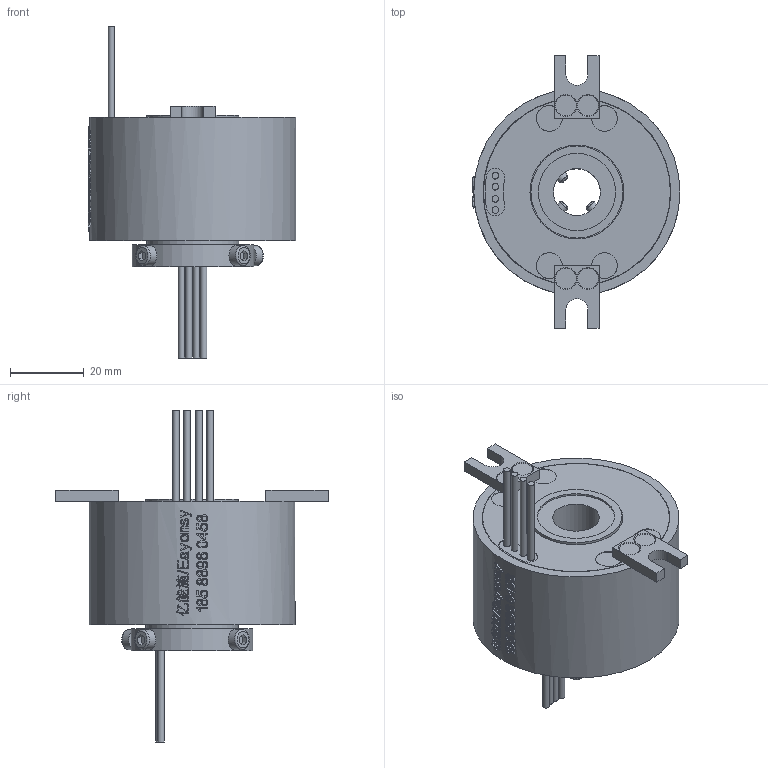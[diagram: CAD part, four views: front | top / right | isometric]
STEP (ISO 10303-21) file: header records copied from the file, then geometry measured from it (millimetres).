
FILE_DESCRIPTION(/* description */ (''),/* implementation_level */ '2;1');
FILE_NAME(/* name */ 'YDS1256-0410-3D模型.stp',/* time_stamp */ '2025-09-03T18:13:48+08:00',/* author */ (''),/* organization */ (''),/* preprocessor_version */ 'ST-DEVELOPER v16.7',/* originating_system */ 'SIEMENS PLM Software NX 12.0',/* authorisation */ '');
FILE_SCHEMA (('AUTOMOTIVE_DESIGN { 1 0 10303 214 3 1 1 1 }'));
Length unit declared in the file: millimetre
Products named in the file (1): Admi57E0E5BE09au
Bounding box: 56.5 x 74 x 90.2 mm (x, y, z)
Volume: 84905.1 mm3; surface area: 18111.6 mm2
Topology: 1 solids, 3 shells, 930 faces, 2486 edges, 1651 vertices
Faces by surface type: extrusion 479, plane 329, cylinder 77, bspline 33, cone 8, torus 4
Full cylindrical faces by diameter (mm): 1.8 x8, 2.5 x2, 2.6 x1, 3 x11, 5.5 x4, 7 x8, 12.7 x1, 21 x1, 25 x2, 25.5 x2, 28 x2, 28.1 x2, 33 x1, 50.8 x2, 51 x2, 56 x1
Entity records: 37952 total; most frequent: CARTESIAN_POINT 18519, ORIENTED_EDGE 4796, EDGE_CURVE 2398, B_SPLINE_CURVE_WITH_KNOTS 2305, DIRECTION 2177, VERTEX_POINT 1625, EDGE_LOOP 1095, ADVANCED_FACE 930
